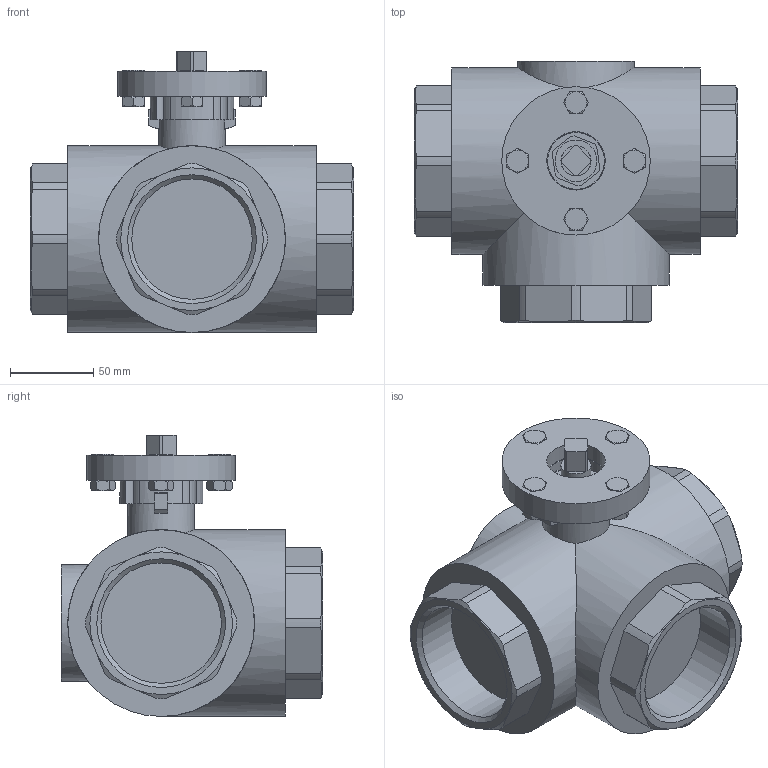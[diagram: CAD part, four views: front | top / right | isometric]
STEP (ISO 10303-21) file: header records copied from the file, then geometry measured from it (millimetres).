
FILE_DESCRIPTION(/* description */ (''),/* implementation_level */ '2;1');
FILE_NAME(/* name */ '92PME212.stp',/* time_stamp */ '2025-09-09T14:18:26+02:00',/* author */ ('ut6'),/* organization */ (''),/* preprocessor_version */ 'ST-DEVELOPER v20.1',/* originating_system */ 'Autodesk Inventor 2026',/* authorisation */ '');
FILE_SCHEMA (('AUTOMOTIVE_DESIGN { 1 0 10303 214 3 1 1 }'));
Length unit declared in the file: millimetre
Products named in the file (1): 92PME212_Semplifica_1
Bounding box: 194 x 157 x 168.55 mm (x, y, z)
Volume: 1960964.9 mm3; surface area: 148215.2 mm2
Topology: 1 solids, 1 shells, 341 faces, 896 edges, 583 vertices
Faces by surface type: plane 162, cylinder 85, cone 84, bspline 10
Full cylindrical faces by diameter (mm): 18 x1, 25 x1, 34 x1, 35 x2, 40 x1, 70 x1, 72.23 x3, 89 x1, 112 x2
Entity records: 11069 total; most frequent: CARTESIAN_POINT 3205, ORIENTED_EDGE 1792, DIRECTION 1500, EDGE_CURVE 896, VERTEX_POINT 583, AXIS2_PLACEMENT_3D 566, LINE 368, VECTOR 368
